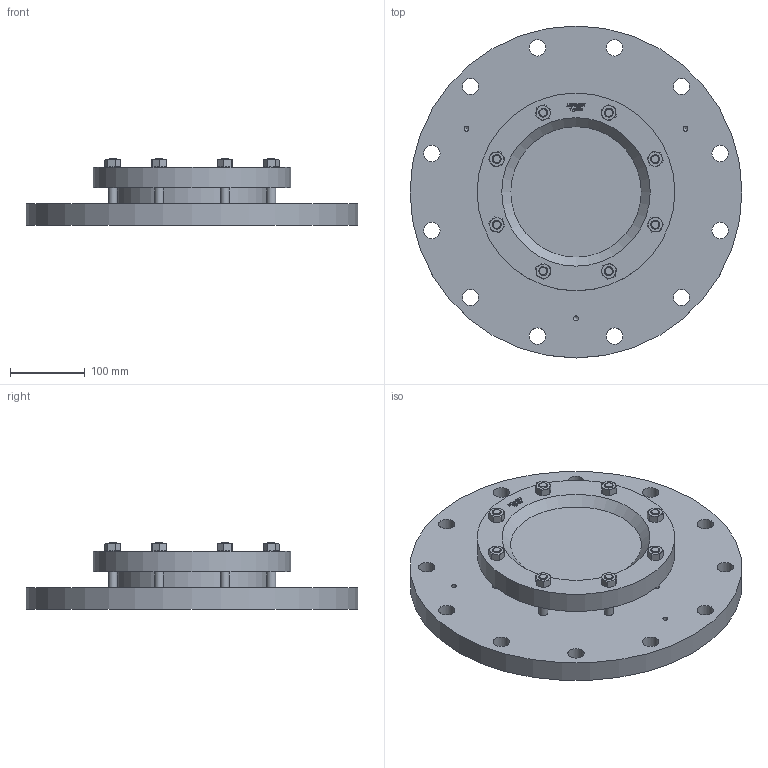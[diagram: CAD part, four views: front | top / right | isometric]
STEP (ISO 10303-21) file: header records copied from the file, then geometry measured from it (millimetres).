
FILE_DESCRIPTION(/* description */ (''),/* implementation_level */ '2;1');
FILE_NAME(/* name */ 'W:\Konstruktion_ACI\325\_STEP\325-300-10.stp',/* time_stamp */ '2022-03-02T17:02:09+01:00',/* author */ ('koslowksi'),/* organization */ (''),/* preprocessor_version */ 'ST-DEVELOPER v16.1',/* originating_system */ 'Autodesk Inventor 2016',/* authorisation */ '');
FILE_SCHEMA (('AUTOMOTIVE_DESIGN { 1 0 10303 214 3 1 1 }'));
Length unit declared in the file: millimetre
Products named in the file (1): 325-300-10
Bounding box: 445 x 445 x 89 mm (x, y, z)
Volume: 6321416.5 mm3; surface area: 462458.1 mm2
Topology: 1 solids, 1 shells, 441 faces, 1124 edges, 723 vertices
Faces by surface type: plane 199, cone 108, bspline 108, cylinder 26
Full cylindrical faces by diameter (mm): 6.647 x3, 12 x8, 22 x12, 204 x1, 265 x1, 445 x1
Entity records: 13702 total; most frequent: CARTESIAN_POINT 3993, ORIENTED_EDGE 2126, DIRECTION 1489, EDGE_CURVE 1063, VERTEX_POINT 700, EDGE_LOOP 557, AXIS2_PLACEMENT_3D 500, LINE 489
